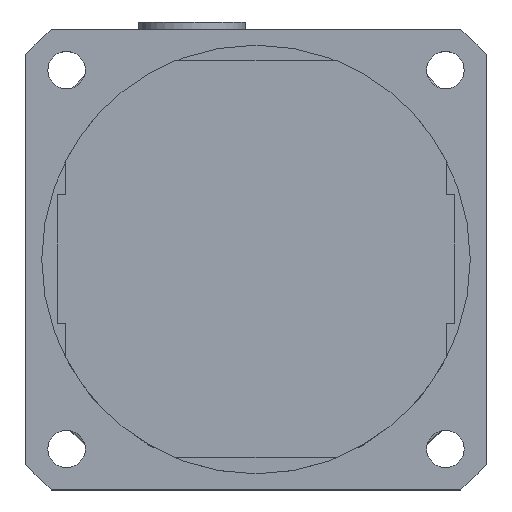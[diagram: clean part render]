
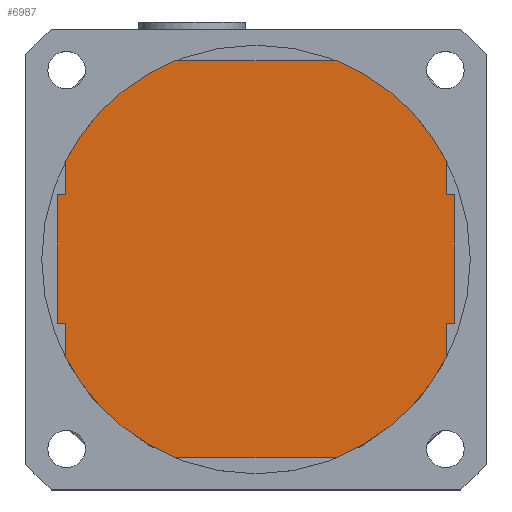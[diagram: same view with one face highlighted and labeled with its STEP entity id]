
A CAD part, top view. The second image highlights one B-rep face of the part: STEP entity #6987.
In plain terms, the highlighted planar face has unit normal (0, 0, 1).
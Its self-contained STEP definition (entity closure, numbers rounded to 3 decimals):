
#2183=LINE('',#11014,#8265);
#2187=LINE('',#11023,#8269);
#2191=LINE('',#11032,#8273);
#2194=LINE('',#11038,#8276);
#2197=LINE('',#11044,#8279);
#2201=LINE('',#11053,#8283);
#2203=LINE('',#11058,#8285);
#2204=LINE('',#11062,#8286);
#2205=LINE('',#11064,#8287);
#2206=LINE('',#11066,#8288);
#2207=LINE('',#11068,#8289);
#2208=LINE('',#11071,#8290);
#2209=LINE('',#11075,#8291);
#2210=LINE('',#11077,#8292);
#2211=LINE('',#11079,#8293);
#2212=LINE('',#11081,#8294);
#2826=VERTEX_POINT('',#11015);
#2827=VERTEX_POINT('',#11016);
#2830=VERTEX_POINT('',#11024);
#2831=VERTEX_POINT('',#11025);
#2834=VERTEX_POINT('',#11033);
#2836=VERTEX_POINT('',#11039);
#2838=VERTEX_POINT('',#11045);
#2839=VERTEX_POINT('',#11046);
#2842=VERTEX_POINT('',#11057);
#2843=VERTEX_POINT('',#11059);
#2844=VERTEX_POINT('',#11061);
#2845=VERTEX_POINT('',#11063);
#2846=VERTEX_POINT('',#11065);
#2847=VERTEX_POINT('',#11067);
#2848=VERTEX_POINT('',#11070);
#2849=VERTEX_POINT('',#11072);
#2850=VERTEX_POINT('',#11074);
#2851=VERTEX_POINT('',#11076);
#2852=VERTEX_POINT('',#11078);
#2853=VERTEX_POINT('',#11080);
#3288=CIRCLE('',#7595,40.);
#3289=CIRCLE('',#7596,40.);
#3290=CIRCLE('',#7597,40.);
#3291=CIRCLE('',#7598,40.);
#3792=EDGE_CURVE('',#2826,#2827,#2183,.T.);
#3796=EDGE_CURVE('',#2830,#2831,#2187,.T.);
#3800=EDGE_CURVE('',#2831,#2834,#2191,.T.);
#3803=EDGE_CURVE('',#2834,#2836,#2194,.T.);
#3806=EDGE_CURVE('',#2838,#2839,#2197,.T.);
#3810=EDGE_CURVE('',#2839,#2826,#2201,.T.);
#3812=EDGE_CURVE('',#2842,#2838,#3288,.T.);
#3813=EDGE_CURVE('',#2843,#2842,#2203,.T.);
#3814=EDGE_CURVE('',#2844,#2843,#3289,.T.);
#3815=EDGE_CURVE('',#2845,#2844,#2204,.T.);
#3816=EDGE_CURVE('',#2846,#2845,#2205,.T.);
#3817=EDGE_CURVE('',#2847,#2846,#2206,.T.);
#3818=EDGE_CURVE('',#2836,#2847,#2207,.T.);
#3819=EDGE_CURVE('',#2848,#2830,#3290,.T.);
#3820=EDGE_CURVE('',#2849,#2848,#2208,.T.);
#3821=EDGE_CURVE('',#2850,#2849,#3291,.T.);
#3822=EDGE_CURVE('',#2851,#2850,#2209,.T.);
#3823=EDGE_CURVE('',#2852,#2851,#2210,.T.);
#3824=EDGE_CURVE('',#2853,#2852,#2211,.T.);
#3825=EDGE_CURVE('',#2827,#2853,#2212,.T.);
#4974=ORIENTED_EDGE('',*,*,#3792,.F.);
#4975=ORIENTED_EDGE('',*,*,#3810,.F.);
#4976=ORIENTED_EDGE('',*,*,#3806,.F.);
#4977=ORIENTED_EDGE('',*,*,#3812,.F.);
#4978=ORIENTED_EDGE('',*,*,#3813,.F.);
#4979=ORIENTED_EDGE('',*,*,#3814,.F.);
#4980=ORIENTED_EDGE('',*,*,#3815,.F.);
#4981=ORIENTED_EDGE('',*,*,#3816,.F.);
#4982=ORIENTED_EDGE('',*,*,#3817,.F.);
#4983=ORIENTED_EDGE('',*,*,#3818,.F.);
#4984=ORIENTED_EDGE('',*,*,#3803,.F.);
#4985=ORIENTED_EDGE('',*,*,#3800,.F.);
#4986=ORIENTED_EDGE('',*,*,#3796,.F.);
#4987=ORIENTED_EDGE('',*,*,#3819,.F.);
#4988=ORIENTED_EDGE('',*,*,#3820,.F.);
#4989=ORIENTED_EDGE('',*,*,#3821,.F.);
#4990=ORIENTED_EDGE('',*,*,#3822,.F.);
#4991=ORIENTED_EDGE('',*,*,#3823,.F.);
#4992=ORIENTED_EDGE('',*,*,#3824,.F.);
#4993=ORIENTED_EDGE('',*,*,#3825,.F.);
#6140=EDGE_LOOP('',(#4974,#4975,#4976,#4977,#4978,#4979,#4980,#4981,#4982,
#4983,#4984,#4985,#4986,#4987,#4988,#4989,#4990,#4991,#4992,#4993));
#6602=FACE_BOUND('',#6140,.T.);
#6987=ADVANCED_FACE('',(#6602),#8556,.T.);
#7594=AXIS2_PLACEMENT_3D('',#11055,#13993,$);
#7595=AXIS2_PLACEMENT_3D('',#11056,#13994,#13995);
#7596=AXIS2_PLACEMENT_3D('',#11060,#13997,#13998);
#7597=AXIS2_PLACEMENT_3D('',#11069,#14003,#14004);
#7598=AXIS2_PLACEMENT_3D('',#11073,#14006,#14007);
#8265=VECTOR('',#13968,1.);
#8269=VECTOR('',#13973,1.);
#8273=VECTOR('',#13978,1.);
#8276=VECTOR('',#13982,1.);
#8279=VECTOR('',#13986,1.);
#8283=VECTOR('',#13991,1.);
#8285=VECTOR('',#13996,1.);
#8286=VECTOR('',#13999,1.);
#8287=VECTOR('',#14000,1.);
#8288=VECTOR('',#14001,1.);
#8289=VECTOR('',#14002,1.);
#8290=VECTOR('',#14005,1.);
#8291=VECTOR('',#14008,1.);
#8292=VECTOR('',#14009,1.);
#8293=VECTOR('',#14010,1.);
#8294=VECTOR('',#14011,1.);
#8556=PLANE('',#7594);
#11014=CARTESIAN_POINT('',(35.5,12.,144.));
#11015=CARTESIAN_POINT('',(35.5,12.,144.));
#11016=CARTESIAN_POINT('',(37.,12.,144.));
#11023=CARTESIAN_POINT('',(-35.721,-18.,144.));
#11024=CARTESIAN_POINT('',(-35.721,-18.,144.));
#11025=CARTESIAN_POINT('',(-35.5,-18.,144.));
#11032=CARTESIAN_POINT('',(-35.5,-18.,144.));
#11033=CARTESIAN_POINT('',(-35.5,-12.,144.));
#11038=CARTESIAN_POINT('',(-35.5,-12.,144.));
#11039=CARTESIAN_POINT('',(-37.,-12.,144.));
#11044=CARTESIAN_POINT('',(35.721,18.,144.));
#11045=CARTESIAN_POINT('',(35.721,18.,144.));
#11046=CARTESIAN_POINT('',(35.5,18.,144.));
#11053=CARTESIAN_POINT('',(35.5,18.,144.));
#11055=CARTESIAN_POINT('',(0.,0.,144.));
#11056=CARTESIAN_POINT('',(0.,0.,144.));
#11057=CARTESIAN_POINT('',(15.199,37.,144.));
#11058=CARTESIAN_POINT('',(-15.199,37.,144.));
#11059=CARTESIAN_POINT('',(-15.199,37.,144.));
#11060=CARTESIAN_POINT('',(0.,0.,144.));
#11061=CARTESIAN_POINT('',(-35.721,18.,144.));
#11062=CARTESIAN_POINT('',(-35.5,18.,144.));
#11063=CARTESIAN_POINT('',(-35.5,18.,144.));
#11064=CARTESIAN_POINT('',(-35.5,12.,144.));
#11065=CARTESIAN_POINT('',(-35.5,12.,144.));
#11066=CARTESIAN_POINT('',(-37.,12.,144.));
#11067=CARTESIAN_POINT('',(-37.,12.,144.));
#11068=CARTESIAN_POINT('',(-37.,-12.,144.));
#11069=CARTESIAN_POINT('',(0.,0.,144.));
#11070=CARTESIAN_POINT('',(-15.199,-37.,144.));
#11071=CARTESIAN_POINT('',(15.199,-37.,144.));
#11072=CARTESIAN_POINT('',(15.199,-37.,144.));
#11073=CARTESIAN_POINT('',(0.,0.,144.));
#11074=CARTESIAN_POINT('',(35.721,-18.,144.));
#11075=CARTESIAN_POINT('',(35.5,-18.,144.));
#11076=CARTESIAN_POINT('',(35.5,-18.,144.));
#11077=CARTESIAN_POINT('',(35.5,-12.,144.));
#11078=CARTESIAN_POINT('',(35.5,-12.,144.));
#11079=CARTESIAN_POINT('',(37.,-12.,144.));
#11080=CARTESIAN_POINT('',(37.,-12.,144.));
#11081=CARTESIAN_POINT('',(37.,12.,144.));
#13968=DIRECTION('',(1.,0.,0.));
#13973=DIRECTION('',(1.,0.,0.));
#13978=DIRECTION('',(0.,1.,0.));
#13982=DIRECTION('',(-1.,0.,0.));
#13986=DIRECTION('',(-1.,0.,0.));
#13991=DIRECTION('',(0.,-1.,0.));
#13993=DIRECTION('',(0.,0.,1.));
#13994=DIRECTION('',(0.,0.,-1.));
#13995=DIRECTION('',(40.,0.,0.));
#13996=DIRECTION('',(1.,0.,0.));
#13997=DIRECTION('',(0.,0.,-1.));
#13998=DIRECTION('',(40.,0.,0.));
#13999=DIRECTION('',(-1.,0.,0.));
#14000=DIRECTION('',(0.,1.,0.));
#14001=DIRECTION('',(1.,0.,0.));
#14002=DIRECTION('',(0.,1.,0.));
#14003=DIRECTION('',(0.,0.,-1.));
#14004=DIRECTION('',(40.,0.,0.));
#14005=DIRECTION('',(-1.,0.,0.));
#14006=DIRECTION('',(0.,0.,-1.));
#14007=DIRECTION('',(40.,0.,0.));
#14008=DIRECTION('',(1.,0.,0.));
#14009=DIRECTION('',(0.,-1.,0.));
#14010=DIRECTION('',(-1.,0.,0.));
#14011=DIRECTION('',(0.,-1.,0.));
